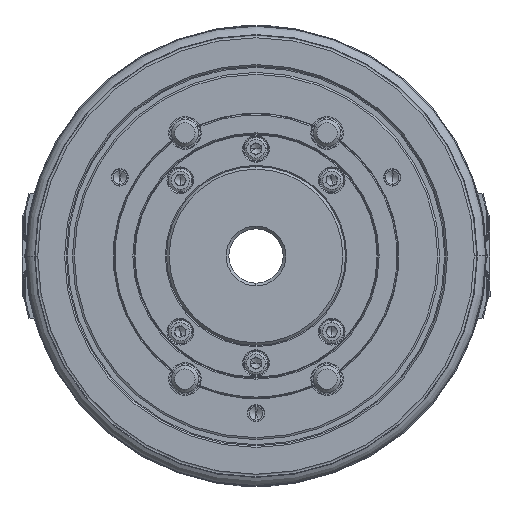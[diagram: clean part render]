
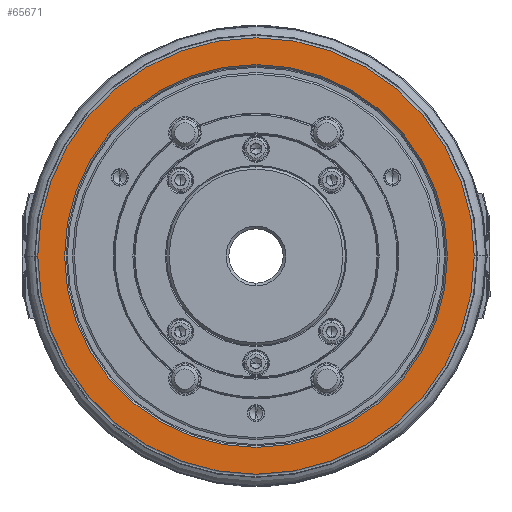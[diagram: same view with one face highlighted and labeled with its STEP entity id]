
A CAD part, left-side view. The second image highlights one B-rep face of the part: STEP entity #65671.
In plain terms, the highlighted planar face has unit normal (-1, 0, 0) as drawn and (0, 0, -1) by its records, which use the part's own axes.
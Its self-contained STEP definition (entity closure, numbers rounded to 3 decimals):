
#1343 = CARTESIAN_POINT ( 'NONE',  ( 70.6, 0., -81. ) ) ;
#3043 = CARTESIAN_POINT ( 'NONE',  ( 0., 0., -81. ) ) ;
#3085 = CIRCLE ( 'NONE', #41807, 80.5 ) ;
#6965 = VERTEX_POINT ( 'NONE', #73327 ) ;
#7136 = ORIENTED_EDGE ( 'NONE', *, *, #38187, .T. ) ;
#7463 = DIRECTION ( 'NONE',  ( 0., 0., 1. ) ) ;
#7644 = EDGE_CURVE ( 'NONE', #44721, #54648, #3085, .T. ) ;
#12824 = VERTEX_POINT ( 'NONE', #1343 ) ;
#15572 = AXIS2_PLACEMENT_3D ( 'NONE', #3043, #51938, #39041 ) ;
#16044 = DIRECTION ( 'NONE',  ( -1., 0., 0. ) ) ;
#17506 = ORIENTED_EDGE ( 'NONE', *, *, #60059, .T. ) ;
#18787 = EDGE_LOOP ( 'NONE', ( #74341, #19585 ) ) ;
#18989 = CARTESIAN_POINT ( 'NONE',  ( 0., -80.5, -81. ) ) ;
#19376 = CIRCLE ( 'NONE', #15572, 70.6 ) ;
#19585 = ORIENTED_EDGE ( 'NONE', *, *, #55398, .F. ) ;
#22698 = CARTESIAN_POINT ( 'NONE',  ( 70.6, 0., -81. ) ) ;
#23084 = FACE_OUTER_BOUND ( 'NONE', #18787, .T. ) ;
#31728 = AXIS2_PLACEMENT_3D ( 'NONE', #72841, #66574, #71682 ) ;
#37977 = CARTESIAN_POINT ( 'NONE',  ( 0., 0., -81. ) ) ;
#38187 = EDGE_CURVE ( 'NONE', #12824, #6965, #19376, .T. ) ;
#38346 = AXIS2_PLACEMENT_3D ( 'NONE', #37977, #7463, #72445 ) ;
#39041 = DIRECTION ( 'NONE',  ( 1., 0., 0. ) ) ;
#39556 = FACE_BOUND ( 'NONE', #43909, .T. ) ;
#41807 = AXIS2_PLACEMENT_3D ( 'NONE', #45429, #57559, #51286 ) ;
#43909 = EDGE_LOOP ( 'NONE', ( #17506, #7136 ) ) ;
#44721 = VERTEX_POINT ( 'NONE', #65806 ) ;
#45429 = CARTESIAN_POINT ( 'NONE',  ( 0., 0., -81. ) ) ;
#51286 = DIRECTION ( 'NONE',  ( 0., 1., 0. ) ) ;
#51938 = DIRECTION ( 'NONE',  ( 0., 0., 1. ) ) ;
#54648 = VERTEX_POINT ( 'NONE', #18989 ) ;
#55398 = EDGE_CURVE ( 'NONE', #54648, #44721, #66716, .T. ) ;
#57559 = DIRECTION ( 'NONE',  ( 0., 0., 1. ) ) ;
#60059 = EDGE_CURVE ( 'NONE', #6965, #12824, #60821, .T. ) ;
#60821 = CIRCLE ( 'NONE', #38346, 70.6 ) ;
#65671 = ADVANCED_FACE ( 'NONE', ( #23084, #39556 ), #76342, .T. ) ;
#65806 = CARTESIAN_POINT ( 'NONE',  ( 0., 80.5, -81. ) ) ;
#66574 = DIRECTION ( 'NONE',  ( 0., 0., 1. ) ) ;
#66716 = CIRCLE ( 'NONE', #31728, 80.5 ) ;
#68943 = DIRECTION ( 'NONE',  ( 0., 0., -1. ) ) ;
#70262 = AXIS2_PLACEMENT_3D ( 'NONE', #22698, #68943, #16044 ) ;
#71682 = DIRECTION ( 'NONE',  ( 0., 1., 0. ) ) ;
#72445 = DIRECTION ( 'NONE',  ( 1., 0., 0. ) ) ;
#72841 = CARTESIAN_POINT ( 'NONE',  ( 0., 0., -81. ) ) ;
#73327 = CARTESIAN_POINT ( 'NONE',  ( -70.6, 0., -81. ) ) ;
#74341 = ORIENTED_EDGE ( 'NONE', *, *, #7644, .F. ) ;
#76342 = PLANE ( 'NONE',  #70262 ) ;
